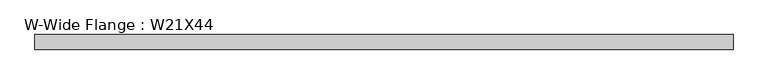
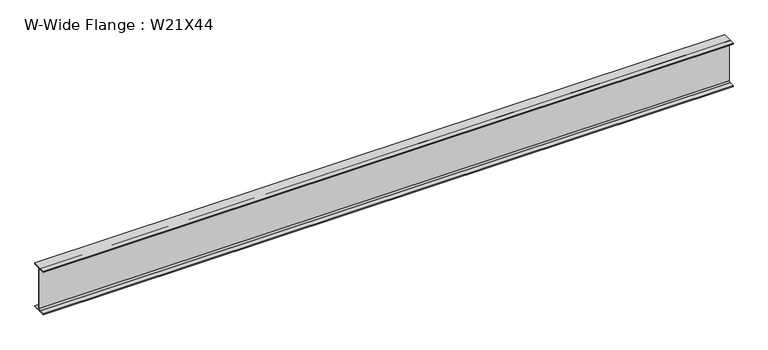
"""IFC4 building model written with IfcOpenShell, lengths in millimetres: beam geometry, W-Wide Flange : W21X44."""

from ifc_helpers import new_model, si_unit, point, frame, frame_2d, origin, place, context, project, spatial, polyline, circle_curve, trimmed, segment, composite_curve, outline, extrude, source, transform, mapped, element, save


def w_wide_flange_w21x44_a0252540(model_context):
    return source(origin(), model_context, "Body", "SweptSolid", [
        extrude(outline(composite_curve([segment(polyline([(82.55, -251.46), (82.55, -262.89), (-82.55, -262.89), (-82.55, -251.46), (-21.59, -251.46)]), True, "CONTINUOUS"), segment(trimmed(circle_curve(frame_2d((-21.59, -234.315)), 17.145), [point((-21.59, -251.46))], [point((-4.445, -234.315))], True, "CARTESIAN"), True, "CONTINUOUS"), segment(polyline([(-4.445, -234.315), (-4.445, 234.315)]), True, "CONTINUOUS"), segment(trimmed(circle_curve(frame_2d((-21.59, 234.315)), 17.145), [point((-4.445, 234.315))], [point((-21.59, 251.46))], True, "CARTESIAN"), True, "CONTINUOUS"), segment(polyline([(-21.59, 251.46), (-82.55, 251.46), (-82.55, 262.89), (82.55, 262.89), (82.55, 251.46), (21.59, 251.46)]), True, "CONTINUOUS"), segment(trimmed(circle_curve(frame_2d((21.59, 234.315)), 17.145), [point((21.59, 251.46))], [point((4.445, 234.315))], True, "CARTESIAN"), True, "CONTINUOUS"), segment(polyline([(4.445, 234.315), (4.445, -234.315)]), True, "CONTINUOUS"), segment(trimmed(circle_curve(frame_2d((21.59, -234.315)), 17.145), [point((4.445, -234.315))], [point((21.59, -251.46))], True, "CARTESIAN"), True, "CONTINUOUS"), segment(polyline([(21.59, -251.46), (82.55, -251.46)]), True, "CONTINUOUS")], self_intersect=False)), frame((-3902.7719693, 0.0, 0.0), z_axis=(1.0, 0.0, 0.0), x_axis=(0.0, 1.0, 0.0)), (0.0, 0.0, 1.0), 7866.2461832),
    ])


if __name__ == "__main__":
    model = new_model("IFC4")
    model_context = context("Model", 3, world=origin())
    ifc_project = project(units=[si_unit("LENGTHUNIT", "METRE", prefix="MILLI")], contexts=[model_context])
    site = spatial("IfcSite", under=ifc_project)
    building = spatial("IfcBuilding", under=site)
    placement = place(None, origin())
    w_wide_flange_w21x44_shape = w_wide_flange_w21x44_a0252540(model_context)
    element("IfcBeam", 1, ObjectType="W-Wide Flange : W21X44", at=placement, inside=building, context=model_context, shape_type="MappedRepresentation", body=[
        mapped(w_wide_flange_w21x44_shape, transform((0.0, 0.0, 0.0), x_axis=(1.0, 0.0, 0.0), y_axis=(0.0, 1.0, 0.0), z_axis=(0.0, 0.0, 1.0))),
    ])
    save(model, "model.ifc")
